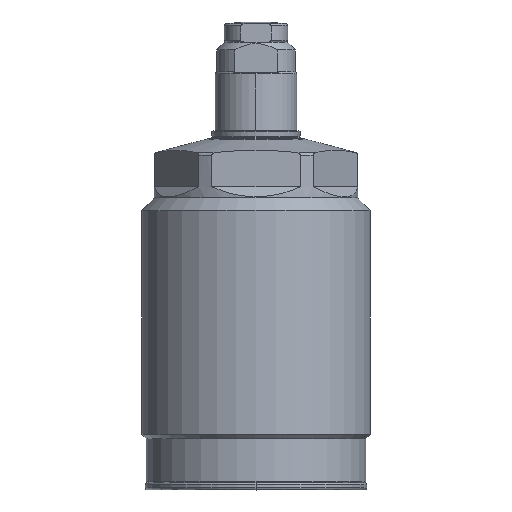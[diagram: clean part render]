
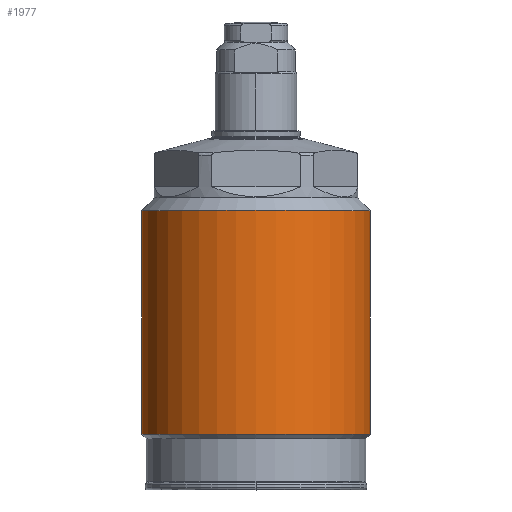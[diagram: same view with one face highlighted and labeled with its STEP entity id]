
A CAD part, top view. The second image highlights one B-rep face of the part: STEP entity #1977.
In plain terms, the highlighted cylindrical face has radius 22.5 mm (diameter 45 mm), a partial arc.
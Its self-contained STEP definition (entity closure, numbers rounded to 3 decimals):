
#924=CYLINDRICAL_SURFACE('',#6611,22.5);
#1443=LINE('',#10197,#1744);
#1444=LINE('',#10201,#1745);
#1744=VECTOR('',#8171,1.);
#1745=VECTOR('',#8174,1.);
#1977=ADVANCED_FACE('',(#2401),#924,.T.);
#2401=FACE_OUTER_BOUND('',#2773,.T.);
#2773=EDGE_LOOP('',(#3806,#3807,#3808,#3809));
#3806=ORIENTED_EDGE('',*,*,#5488,.T.);
#3807=ORIENTED_EDGE('',*,*,#5490,.T.);
#3808=ORIENTED_EDGE('',*,*,#5491,.F.);
#3809=ORIENTED_EDGE('',*,*,#5492,.F.);
#4878=VERTEX_POINT('',#10192);
#4879=VERTEX_POINT('',#10194);
#4880=VERTEX_POINT('',#10198);
#4881=VERTEX_POINT('',#10200);
#5488=EDGE_CURVE('',#4879,#4878,#5971,.T.);
#5490=EDGE_CURVE('',#4878,#4880,#1443,.T.);
#5491=EDGE_CURVE('',#4881,#4880,#5972,.T.);
#5492=EDGE_CURVE('',#4879,#4881,#1444,.T.);
#5971=CIRCLE('',#6608,22.5);
#5972=CIRCLE('',#6610,22.5);
#6608=AXIS2_PLACEMENT_3D('',#10193,#8166,#8167);
#6610=AXIS2_PLACEMENT_3D('',#10199,#8172,#8173);
#6611=AXIS2_PLACEMENT_3D('',#10202,#8175,#8176);
#8166=DIRECTION('',(0.,-1.,0.));
#8167=DIRECTION('',(1.,0.,0.));
#8171=DIRECTION('',(0.,-1.,0.));
#8172=DIRECTION('',(0.,-1.,0.));
#8173=DIRECTION('',(1.,0.,0.));
#8174=DIRECTION('',(0.,-1.,0.));
#8175=DIRECTION('',(0.,-1.,0.));
#8176=DIRECTION('',(-1.,0.,0.));
#10192=CARTESIAN_POINT('',(-22.5,62.023,0.));
#10193=CARTESIAN_POINT('',(0.,62.023,0.));
#10194=CARTESIAN_POINT('',(22.5,62.023,0.));
#10197=CARTESIAN_POINT('',(-22.5,8.923,0.));
#10198=CARTESIAN_POINT('',(-22.5,18.023,0.));
#10199=CARTESIAN_POINT('',(0.,18.023,0.));
#10200=CARTESIAN_POINT('',(22.5,18.023,0.));
#10201=CARTESIAN_POINT('',(22.5,8.923,0.));
#10202=CARTESIAN_POINT('',(0.,8.923,0.));
